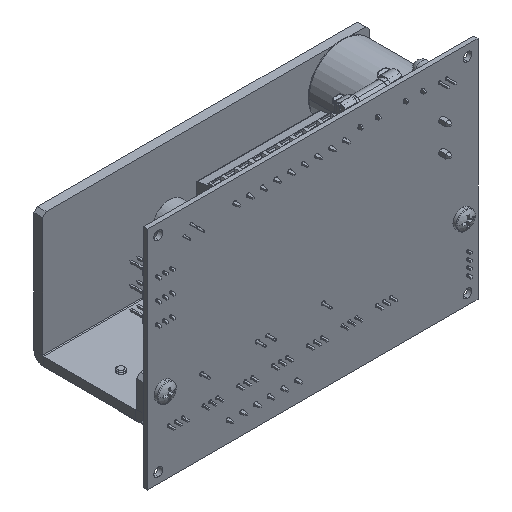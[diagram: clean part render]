
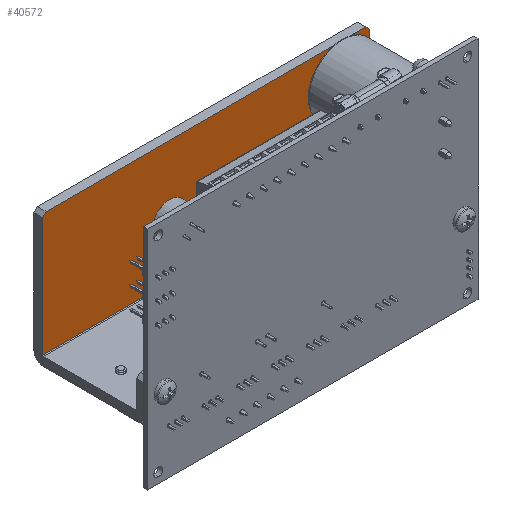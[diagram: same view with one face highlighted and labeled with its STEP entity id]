
A CAD part, isometric view. The second image highlights one B-rep face of the part: STEP entity #40572.
In plain terms, the highlighted planar face has unit normal (0, -1, 0).
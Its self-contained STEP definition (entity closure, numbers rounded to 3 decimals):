
#13434 = DIRECTION ( 'NONE',  ( -0.707, 0., 0.707 ) ) ;
#13435 = VECTOR ( 'NONE', #13434, 1000. ) ;
#13436 = CARTESIAN_POINT ( 'NONE',  ( 142.875, 37.465, 23.495 ) ) ;
#13437 = LINE ( 'NONE', #13436, #13435 ) ;
#13457 = LINE ( 'NONE', #13514, #13513 ) ;
#13480 = DIRECTION ( 'NONE',  ( 0., 0., 1. ) ) ;
#13481 = VECTOR ( 'NONE', #13480, 1000. ) ;
#13482 = CARTESIAN_POINT ( 'NONE',  ( 119.38, 37.465, 0. ) ) ;
#13483 = LINE ( 'NONE', #13482, #13481 ) ;
#13484 = CARTESIAN_POINT ( 'NONE',  ( 119.38, 37.465, 46.99 ) ) ;
#13512 = DIRECTION ( 'NONE',  ( -1., 0., 0. ) ) ;
#13513 = VECTOR ( 'NONE', #13512, 1000. ) ;
#13514 = CARTESIAN_POINT ( 'NONE',  ( 119.38, 37.465, 3.429 ) ) ;
#18207 = VERTEX_POINT ( 'NONE', #61878 ) ;
#19208 = VERTEX_POINT ( 'NONE', #65000 ) ;
#19215 = VERTEX_POINT ( 'NONE', #65068 ) ;
#19217 = EDGE_CURVE ( 'NONE', #19215, #19208, #65063, .T. ) ;
#21648 = CARTESIAN_POINT ( 'NONE',  ( 1.27, 37.465, 48.26 ) ) ;
#30775 = VERTEX_POINT ( 'NONE', #21648 ) ;
#32322 = ORIENTED_EDGE ( 'NONE', *, *, #39545, .T. ) ;
#33068 = EDGE_LOOP ( 'NONE', ( #39533, #32322, #39359, #52130, #52119, #52129 ) ) ;
#38636 = VERTEX_POINT ( 'NONE', #41659 ) ;
#38933 = EDGE_CURVE ( 'NONE', #38636, #30775, #44905, .T. ) ;
#39359 = ORIENTED_EDGE ( 'NONE', *, *, #19217, .F. ) ;
#39533 = ORIENTED_EDGE ( 'NONE', *, *, #38933, .T. ) ;
#39545 = EDGE_CURVE ( 'NONE', #30775, #19208, #51407, .T. ) ;
#40572 = ADVANCED_FACE ( 'NONE', ( #56000 ), #56089, .T. ) ;
#41659 = CARTESIAN_POINT ( 'NONE',  ( 118.11, 37.465, 48.26 ) ) ;
#44900 = DIRECTION ( 'NONE',  ( -1., 0., 0. ) ) ;
#44902 = VECTOR ( 'NONE', #44900, 1000. ) ;
#44904 = CARTESIAN_POINT ( 'NONE',  ( 119.38, 37.465, 48.26 ) ) ;
#44905 = LINE ( 'NONE', #44904, #44902 ) ;
#51403 = DIRECTION ( 'NONE',  ( -0.707, 0., -0.707 ) ) ;
#51404 = VECTOR ( 'NONE', #51403, 1000. ) ;
#51405 = CARTESIAN_POINT ( 'NONE',  ( 36.195, 37.465, 83.185 ) ) ;
#51407 = LINE ( 'NONE', #51405, #51404 ) ;
#52110 = EDGE_CURVE ( 'NONE', #52112, #38636, #13437, .T. ) ;
#52112 = VERTEX_POINT ( 'NONE', #13484 ) ;
#52115 = EDGE_CURVE ( 'NONE', #18207, #52112, #13483, .T. ) ;
#52119 = ORIENTED_EDGE ( 'NONE', *, *, #52115, .T. ) ;
#52129 = ORIENTED_EDGE ( 'NONE', *, *, #52110, .T. ) ;
#52130 = ORIENTED_EDGE ( 'NONE', *, *, #52132, .F. ) ;
#52132 = EDGE_CURVE ( 'NONE', #18207, #19215, #13457, .T. ) ;
#56000 = FACE_OUTER_BOUND ( 'NONE', #33068, .T. ) ;
#56078 = DIRECTION ( 'NONE',  ( 0., 0., -1. ) ) ;
#56080 = DIRECTION ( 'NONE',  ( 0., -1., 0. ) ) ;
#56082 = CARTESIAN_POINT ( 'NONE',  ( 119.38, 37.465, 0. ) ) ;
#56083 = AXIS2_PLACEMENT_3D ( 'NONE', #56082, #56080, #56078 ) ;
#56089 = PLANE ( 'NONE',  #56083 ) ;
#61878 = CARTESIAN_POINT ( 'NONE',  ( 119.38, 37.465, 3.429 ) ) ;
#65000 = CARTESIAN_POINT ( 'NONE',  ( 0., 37.465, 46.99 ) ) ;
#65060 = DIRECTION ( 'NONE',  ( 0., 0., 1. ) ) ;
#65061 = VECTOR ( 'NONE', #65060, 1000. ) ;
#65062 = CARTESIAN_POINT ( 'NONE',  ( 0., 37.465, 0. ) ) ;
#65063 = LINE ( 'NONE', #65062, #65061 ) ;
#65068 = CARTESIAN_POINT ( 'NONE',  ( 0., 37.465, 3.429 ) ) ;
